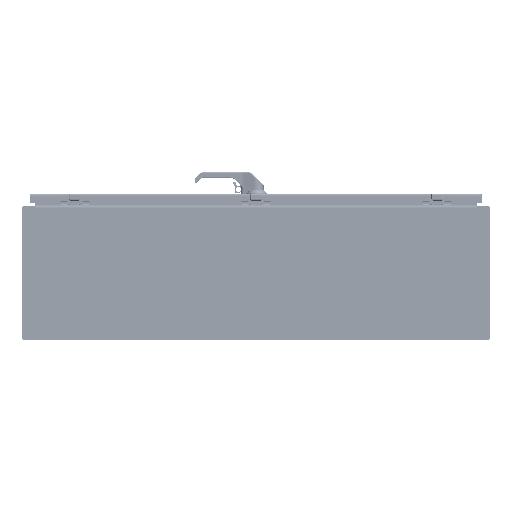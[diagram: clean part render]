
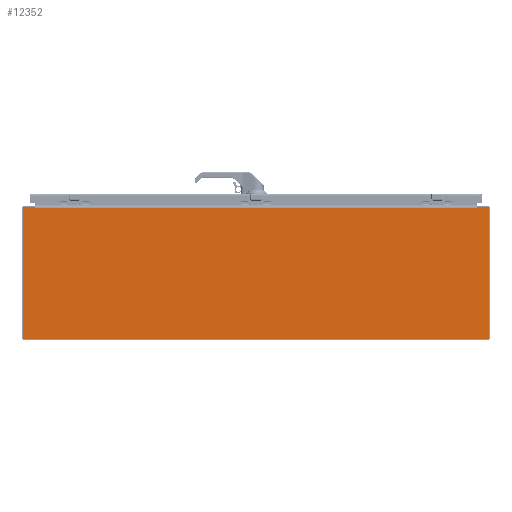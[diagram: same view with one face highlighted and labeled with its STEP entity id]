
A CAD part, front view. The second image highlights one B-rep face of the part: STEP entity #12352.
In plain terms, the highlighted planar face has unit normal (0, -1, 0).
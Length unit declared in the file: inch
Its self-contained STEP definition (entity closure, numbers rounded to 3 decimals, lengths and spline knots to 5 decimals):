
#10811=CARTESIAN_POINT('',(-20.857,0.,5.857));
#10812=DIRECTION('',(0.,-1.,0.));
#10813=DIRECTION('',(0.,0.,1.));
#10814=AXIS2_PLACEMENT_3D('',#10811,#10812,#10813);
#10819=DIRECTION('',(-1.,0.,0.));
#10820=VECTOR('',#10819,1.02894);
#10821=CARTESIAN_POINT('',(-19.82806,0.,5.937));
#10822=LINE('',#10821,#10820);
#10826=DIRECTION('',(0.174,0.,-0.985));
#10827=VECTOR('',#10826,0.08326);
#10828=CARTESIAN_POINT('',(-19.82806,0.,5.937));
#10829=LINE('',#10828,#10827);
#10833=DIRECTION('',(-1.,0.,0.));
#10834=VECTOR('',#10833,0.0156);
#10835=CARTESIAN_POINT('',(-19.798,0.,5.855));
#10836=LINE('',#10835,#10834);
#10840=DIRECTION('',(1.,0.,0.));
#10841=VECTOR('',#10840,0.0156);
#10842=CARTESIAN_POINT('',(19.798,0.,5.855));
#10843=LINE('',#10842,#10841);
#10847=DIRECTION('',(-0.174,0.,-0.985));
#10848=VECTOR('',#10847,0.08326);
#10849=CARTESIAN_POINT('',(19.82806,0.,5.937));
#10850=LINE('',#10849,#10848);
#10854=DIRECTION('',(-1.,0.,0.));
#10855=VECTOR('',#10854,1.02894);
#10856=CARTESIAN_POINT('',(20.857,0.,5.937));
#10857=LINE('',#10856,#10855);
#10861=CARTESIAN_POINT('',(20.857,0.,5.857));
#10862=DIRECTION('',(0.,-1.,0.));
#10863=DIRECTION('',(1.,0.,0.));
#10864=AXIS2_PLACEMENT_3D('',#10861,#10862,#10863);
#10869=DIRECTION('',(0.,0.,1.));
#10870=VECTOR('',#10869,11.714);
#10871=CARTESIAN_POINT('',(20.937,0.,-5.857));
#10872=LINE('',#10871,#10870);
#10876=CARTESIAN_POINT('',(20.857,0.,-5.857));
#10877=DIRECTION('',(0.,-1.,0.));
#10878=DIRECTION('',(0.,0.,-1.));
#10879=AXIS2_PLACEMENT_3D('',#10876,#10877,#10878);
#10884=DIRECTION('',(1.,0.,0.));
#10885=VECTOR('',#10884,41.714);
#10886=CARTESIAN_POINT('',(-20.857,0.,-5.937));
#10887=LINE('',#10886,#10885);
#10891=CARTESIAN_POINT('',(-20.857,0.,-5.857));
#10892=DIRECTION('',(0.,-1.,0.));
#10893=DIRECTION('',(-1.,0.,0.));
#10894=AXIS2_PLACEMENT_3D('',#10891,#10892,#10893);
#10899=DIRECTION('',(0.,0.,-1.));
#10900=VECTOR('',#10899,11.714);
#10901=CARTESIAN_POINT('',(-20.937,0.,5.857));
#10902=LINE('',#10901,#10900);
#11180=DIRECTION('',(1.,0.,0.));
#11181=VECTOR('',#11180,39.596);
#11182=CARTESIAN_POINT('',(-19.798,0.,5.855));
#11183=LINE('',#11182,#11181);
#12117=CARTESIAN_POINT('',(19.798,0.,5.855));
#12118=CARTESIAN_POINT('',(19.8136,0.,5.855));
#12119=VERTEX_POINT('',#12117);
#12120=VERTEX_POINT('',#12118);
#12121=CARTESIAN_POINT('',(19.82806,0.,5.937));
#12122=VERTEX_POINT('',#12121);
#12129=CARTESIAN_POINT('',(-19.798,0.,5.855));
#12130=CARTESIAN_POINT('',(-19.8136,0.,5.855));
#12131=VERTEX_POINT('',#12129);
#12132=VERTEX_POINT('',#12130);
#12133=CARTESIAN_POINT('',(-19.82806,0.,5.937));
#12134=VERTEX_POINT('',#12133);
#12197=CARTESIAN_POINT('',(-20.857,0.,5.937));
#12198=CARTESIAN_POINT('',(-20.937,0.,5.857));
#12199=VERTEX_POINT('',#12197);
#12200=VERTEX_POINT('',#12198);
#12205=CARTESIAN_POINT('',(-20.937,0.,-5.857));
#12206=CARTESIAN_POINT('',(-20.857,0.,-5.937));
#12207=VERTEX_POINT('',#12205);
#12208=VERTEX_POINT('',#12206);
#12213=CARTESIAN_POINT('',(20.857,0.,-5.937));
#12214=CARTESIAN_POINT('',(20.937,0.,-5.857));
#12215=VERTEX_POINT('',#12213);
#12216=VERTEX_POINT('',#12214);
#12221=CARTESIAN_POINT('',(20.937,0.,5.857));
#12222=CARTESIAN_POINT('',(20.857,0.,5.937));
#12223=VERTEX_POINT('',#12221);
#12224=VERTEX_POINT('',#12222);
#12317=CARTESIAN_POINT('',(0.,0.,0.));
#12318=DIRECTION('',(0.,-1.,0.));
#12319=DIRECTION('',(-1.,0.,0.));
#12320=AXIS2_PLACEMENT_3D('',#12317,#12318,#12319);
#12321=PLANE('',#12320);
#12323=ORIENTED_EDGE('',*,*,#12322,.F.);
#12325=ORIENTED_EDGE('',*,*,#12324,.F.);
#12327=ORIENTED_EDGE('',*,*,#12326,.T.);
#12329=ORIENTED_EDGE('',*,*,#12328,.F.);
#12331=ORIENTED_EDGE('',*,*,#12330,.T.);
#12333=ORIENTED_EDGE('',*,*,#12332,.T.);
#12335=ORIENTED_EDGE('',*,*,#12334,.F.);
#12337=ORIENTED_EDGE('',*,*,#12336,.F.);
#12339=ORIENTED_EDGE('',*,*,#12338,.F.);
#12341=ORIENTED_EDGE('',*,*,#12340,.F.);
#12343=ORIENTED_EDGE('',*,*,#12342,.F.);
#12345=ORIENTED_EDGE('',*,*,#12344,.F.);
#12347=ORIENTED_EDGE('',*,*,#12346,.F.);
#12349=ORIENTED_EDGE('',*,*,#12348,.F.);
#12350=EDGE_LOOP('',(#12323,#12325,#12327,#12329,#12331,#12333,#12335,#12337,
#12339,#12341,#12343,#12345,#12347,#12349));
#12351=FACE_OUTER_BOUND('',#12350,.F.);
#10815=CIRCLE('',#10814,0.08);
#10865=CIRCLE('',#10864,0.08);
#10880=CIRCLE('',#10879,0.08);
#10895=CIRCLE('',#10894,0.08);
#12322=EDGE_CURVE('',#12199,#12200,#10815,.T.);
#12324=EDGE_CURVE('',#12134,#12199,#10822,.T.);
#12326=EDGE_CURVE('',#12134,#12132,#10829,.T.);
#12328=EDGE_CURVE('',#12131,#12132,#10836,.T.);
#12330=EDGE_CURVE('',#12131,#12119,#11183,.T.);
#12332=EDGE_CURVE('',#12119,#12120,#10843,.T.);
#12334=EDGE_CURVE('',#12122,#12120,#10850,.T.);
#12336=EDGE_CURVE('',#12224,#12122,#10857,.T.);
#12338=EDGE_CURVE('',#12223,#12224,#10865,.T.);
#12340=EDGE_CURVE('',#12216,#12223,#10872,.T.);
#12342=EDGE_CURVE('',#12215,#12216,#10880,.T.);
#12344=EDGE_CURVE('',#12208,#12215,#10887,.T.);
#12346=EDGE_CURVE('',#12207,#12208,#10895,.T.);
#12348=EDGE_CURVE('',#12200,#12207,#10902,.T.);
#12352=ADVANCED_FACE('',(#12351),#12321,.T.);
